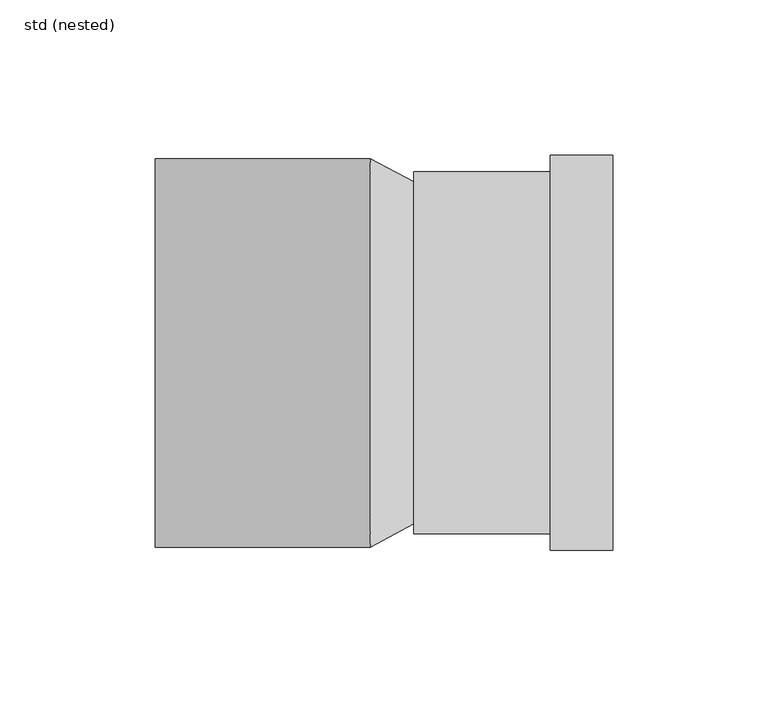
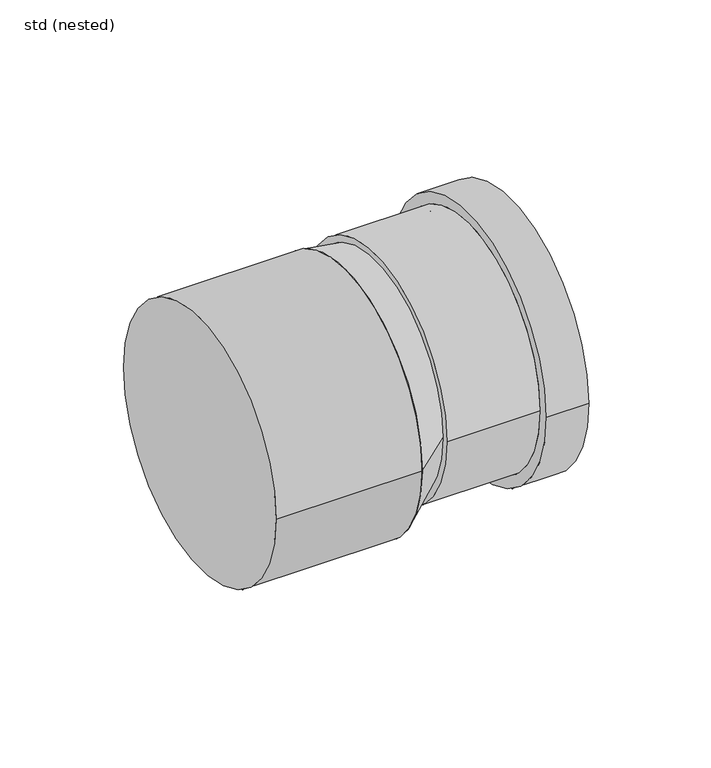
"""IFC4 building model written with IfcOpenShell, lengths in millimetres: pipe fitting geometry, NLRS_52_PIF_UN_SN4 SN8 verloop FM -SH_Dyka : std (nested)."""

import ifcopenshell
import ifcopenshell.guid

model = None  # the IFC model being written
_history = None  # IfcOwnerHistory: only IFC2X3 demands one
_inside = {}  # id of a spatial element -> (the spatial element, [elements in it])
_under = {}  # id of a project, library or spatial element -> (it, [spatial elements below it])
_declared = {}  # id of a project -> (the project, [libraries it declares])
_typed = {}  # id of a type object -> (the type object, [elements of that type])
_made_of = {}  # id of a material, layer set ... -> (it, [elements and type objects made of it])


def new_model(schema):
    """Start an empty IFC model of exactly this schema.

    Asked for "IFC4X3", IfcOpenShell would pick the latest addendum, in which some entities
    have other attributes; the version numbers below select the first issue.
    IFC2X3 requires an IfcOwnerHistory on every rooted entity: one is made here for all.
    """
    global model, _history
    if schema == "IFC4X3":
        model = ifcopenshell.file(schema_version=(4, 3, 0, 0))
    else:
        model = ifcopenshell.file(schema=schema)
    _inside.clear()
    _under.clear()
    _declared.clear()
    _typed.clear()
    _made_of.clear()
    _history = None
    if model.schema == "IFC2X3":
        org = make("IfcOrganization", Name="unknown")
        user = make(
            "IfcPersonAndOrganization",
            ThePerson=make("IfcPerson", FamilyName="unknown"),
            TheOrganization=org,
        )
        app = make(
            "IfcApplication",
            ApplicationDeveloper=org,
            Version="unknown",
            ApplicationFullName="unknown",
            ApplicationIdentifier="unknown",
        )
        _history = make(
            "IfcOwnerHistory",
            OwningUser=user,
            OwningApplication=app,
            ChangeAction="ADDED",
            CreationDate=0,
        )
    return model


def make(cls, **values):
    """One entity of the class cls with the attributes given. An attribute that is None is left unset."""
    return model.create_entity(
        cls, **{name: value for name, value in values.items() if value is not None}
    )


def rooted(cls, **values):
    """An entity with a GlobalId (a new one), such as an element, a storey or a relation."""
    return make(cls, GlobalId=ifcopenshell.guid.new(), OwnerHistory=_history, **values)


def si_unit(unit_type, name, prefix=None):
    """IfcSIUnit, for example si_unit("LENGTHUNIT", "METRE", prefix="MILLI")."""
    return make("IfcSIUnit", UnitType=unit_type, Prefix=prefix, Name=name)


def assignment(units):
    """IfcUnitAssignment: the units of a project."""
    return None if units is None else make("IfcUnitAssignment", Units=units)


def point(xyz):
    """IfcCartesianPoint."""
    return None if xyz is None else make("IfcCartesianPoint", Coordinates=xyz)


def direction(xyz):
    """IfcDirection."""
    return None if xyz is None else make("IfcDirection", DirectionRatios=xyz)


def frame(location, z_axis=None, x_axis=None):
    """IfcAxis2Placement3D, a coordinate frame: its origin and axes. An axis left out is left unset."""
    return make(
        "IfcAxis2Placement3D",
        Location=point(location),
        Axis=direction(z_axis),
        RefDirection=direction(x_axis),
    )


def frame_2d(location, x_axis=None):
    """IfcAxis2Placement2D, a coordinate frame in the plane: its origin and x axis."""
    return make(
        "IfcAxis2Placement2D", Location=point(location), RefDirection=direction(x_axis)
    )


def origin():
    """The frame at (0, 0, 0) with its axes left unset."""
    return frame((0.0, 0.0, 0.0))


def origin_2d():
    """The frame at (0, 0) in the plane with its x axis left unset."""
    return frame_2d((0.0, 0.0))


def place(relative_to, where):
    """IfcLocalPlacement: puts the frame where relative to a parent placement (None: the world)."""
    return make(
        "IfcLocalPlacement", PlacementRelTo=relative_to, RelativePlacement=where
    )


def context(
    kind, dimensions, precision=None, world=None, true_north=None, identifier=None
):
    """IfcGeometricRepresentationContext, for example the 3D "Model" context."""
    return make(
        "IfcGeometricRepresentationContext",
        ContextIdentifier=identifier,
        ContextType=kind,
        CoordinateSpaceDimension=dimensions,
        Precision=precision,
        WorldCoordinateSystem=world,
        TrueNorth=true_north,
    )


def project(units=None, contexts=None):
    """IfcProject with its units and contexts."""
    return rooted(
        "IfcProject",
        Name="project",
        RepresentationContexts=contexts,
        UnitsInContext=assignment(units),
    )


def spatial(cls, under=None, at=None, **own):
    """A site, building, storey or space (cls), placed at a placement, below another one or the project."""
    s = rooted(cls, ObjectPlacement=at, **own)
    if under is not None:
        _under.setdefault(under.id(), (under, []))[1].append(s)
    return s


def polyline(points):
    """IfcPolyline through the points."""
    return make("IfcPolyline", Points=[point(p) for p in points])


def circle_curve(where, radius):
    """IfcCircle in the frame where."""
    return make("IfcCircle", Position=where, Radius=radius)


def trimmed(basis, trim1, trim2, sense, master):
    """IfcTrimmedCurve: the piece of a basis curve between two trims."""
    return make(
        "IfcTrimmedCurve",
        BasisCurve=basis,
        Trim1=trim1,
        Trim2=trim2,
        SenseAgreement=sense,
        MasterRepresentation=master,
    )


def segment(curve, same_sense, transition):
    """IfcCompositeCurveSegment."""
    return make(
        "IfcCompositeCurveSegment",
        Transition=transition,
        SameSense=same_sense,
        ParentCurve=curve,
    )


def composite_curve(segments, self_intersect=None):
    """IfcCompositeCurve: segments joined end to end."""
    return make("IfcCompositeCurve", Segments=segments, SelfIntersect=self_intersect)


def outline(outer, holes=None, kind="AREA"):
    """IfcArbitraryClosedProfileDef: a profile drawn as a closed curve; with holes, ...WithVoids."""
    if holes is None:
        return make("IfcArbitraryClosedProfileDef", ProfileType=kind, OuterCurve=outer)
    return make(
        "IfcArbitraryProfileDefWithVoids",
        ProfileType=kind,
        OuterCurve=outer,
        InnerCurves=holes,
    )


def extrude(swept, where, along, depth):
    """IfcExtrudedAreaSolid: the profile swept, set in the frame where, extruded along a direction by depth."""
    return make(
        "IfcExtrudedAreaSolid",
        SweptArea=swept,
        Position=where,
        ExtrudedDirection=direction(along),
        Depth=depth,
    )


def shape(context_of_items, identifier, shape_type, items):
    """IfcShapeRepresentation: the items that make up one representation, for example the "Body"."""
    return make(
        "IfcShapeRepresentation",
        ContextOfItems=context_of_items,
        RepresentationIdentifier=identifier,
        RepresentationType=shape_type,
        Items=items,
    )


def source(mapping_origin, context_of_items, identifier, shape_type, items):
    """IfcRepresentationMap: a shape defined once, which mapped items show again and again."""
    return make(
        "IfcRepresentationMap",
        MappingOrigin=mapping_origin,
        MappedRepresentation=shape(context_of_items, identifier, shape_type, items),
    )


def transform(
    local_origin,
    x_axis=None,
    y_axis=None,
    z_axis=None,
    scale=None,
    scale2=None,
    scale3=None,
    uniform=True,
):
    """IfcCartesianTransformationOperator3D, or its non-uniform kind. x_axis, y_axis, z_axis: its Axis1, 2, 3."""
    if uniform:
        return make(
            "IfcCartesianTransformationOperator3D",
            Axis1=direction(x_axis),
            Axis2=direction(y_axis),
            LocalOrigin=point(local_origin),
            Scale=scale,
            Axis3=direction(z_axis),
        )
    return make(
        "IfcCartesianTransformationOperator3DnonUniform",
        Axis1=direction(x_axis),
        Axis2=direction(y_axis),
        LocalOrigin=point(local_origin),
        Scale=scale,
        Axis3=direction(z_axis),
        Scale2=scale2,
        Scale3=scale3,
    )


def mapped(mapping_source, mapping_target):
    """IfcMappedItem: shows the shape of a source again, moved by a transform."""
    return make(
        "IfcMappedItem", MappingSource=mapping_source, MappingTarget=mapping_target
    )


def made_of(thing, what):
    """Note that an element or type object is made of a material, layer set ...; save() writes the relation."""
    if what is not None:
        _made_of.setdefault(what.id(), (what, []))[1].append(thing)
    return thing


def element(
    cls,
    number,
    at=None,
    inside=None,
    cuts=None,
    type_object=None,
    material=None,
    context=None,
    identifier="Body",
    shape_type=None,
    held_by="IfcProductDefinitionShape",
    body=None,
    shapes=None,
    **own,
):
    """One element of the class cls, such as IfcWall. Its Tag is "e" and its number.

    at: its placement. inside: the storey or other place that contains it. cuts: it is an
    opening in that element (IfcRelVoidsElement). A single representation is given by context,
    identifier, shape_type and body (its items); several are given by shapes. held_by: the class
    of the entity that holds the representations. save() writes the other relations.
    """
    e = rooted(cls, Tag="e%d" % number, ObjectPlacement=at, **own)
    if body is not None:
        shapes = [shape(context, identifier, shape_type, body)]
    if shapes is not None:
        e.Representation = make(held_by, Representations=shapes)
    if inside is not None:
        _inside.setdefault(inside.id(), (inside, []))[1].append(e)
    if cuts is not None:
        rooted(
            "IfcRelVoidsElement", RelatingBuildingElement=cuts, RelatedOpeningElement=e
        )
    if type_object is not None:
        _typed.setdefault(type_object.id(), (type_object, []))[1].append(e)
    return made_of(e, material)


def aggregate(whole, parts):
    """IfcRelAggregates: a whole, such as a stair, and the parts it consists of."""
    return rooted("IfcRelAggregates", RelatingObject=whole, RelatedObjects=parts)


def save(model, path):
    """Write the relations noted so far, then the file.

    IfcRelAggregates (storeys below a building ...), IfcRelContainedInSpatialStructure (elements
    in a storey), IfcRelDefinesByType, IfcRelAssociatesMaterial and IfcRelDeclares: one each for
    every whole, place, type object, material and project.
    """
    for whole, parts in _under.values():
        aggregate(whole, parts)
    for where, things in _inside.values():
        rooted(
            "IfcRelContainedInSpatialStructure",
            RelatedElements=things,
            RelatingStructure=where,
        )
    for kind, things in _typed.values():
        rooted("IfcRelDefinesByType", RelatedObjects=things, RelatingType=kind)
    for what, things in _made_of.values():
        rooted("IfcRelAssociatesMaterial", RelatedObjects=things, RelatingMaterial=what)
    for by, libraries in _declared.values():
        rooted("IfcRelDeclares", RelatingContext=by, RelatedDefinitions=libraries)
    model.write(path)


def plane_surface(at):
    """IfcPlane: the flat surface through the origin of the frame at, square to its z axis."""
    return make("IfcPlane", Position=at)


def cylinder_surface(at, radius):
    """IfcCylindricalSurface: all points at the distance radius from the z axis of the frame at."""
    return make("IfcCylindricalSurface", Position=at, Radius=radius)


def revolved_surface(curve, axis_point, axis_direction):
    """IfcSurfaceOfRevolution: the curve turned about the line through axis_point along axis_direction."""
    return make(
        "IfcSurfaceOfRevolution",
        SweptCurve=make("IfcArbitraryOpenProfileDef", ProfileType="CURVE", Curve=curve),
        AxisPosition=make("IfcAxis1Placement", Location=point(axis_point), Axis=direction(axis_direction)),
    )


def spline_surface(u_degree, v_degree, points, u_multiplicities, v_multiplicities, u_knots, v_knots, weights=None):
    """IfcBSplineSurfaceWithKnots; with weights, IfcRationalBSplineSurfaceWithKnots. points: one row for each step in u."""
    own = dict(
        UDegree=u_degree,
        VDegree=v_degree,
        ControlPointsList=[[point(p) for p in row] for row in points],
        SurfaceForm="UNSPECIFIED",
        UClosed=False,
        VClosed=False,
        SelfIntersect=False,
        UMultiplicities=u_multiplicities,
        VMultiplicities=v_multiplicities,
        UKnots=u_knots,
        VKnots=v_knots,
        KnotSpec="UNSPECIFIED",
    )
    if weights is None:
        return make("IfcBSplineSurfaceWithKnots", **own)
    return make("IfcRationalBSplineSurfaceWithKnots", WeightsData=weights, **own)


def advanced_brep(points, edges, surfaces, faces):
    """IfcAdvancedBrep: a solid bounded by faces that lie on surfaces and meet in shared edges.

    An edge is (start, end): straight between two places in points (the first is 0);
    or (start, end, curve); or (start, end, curve, False) where it runs against its curve.
    A face is (place in surfaces, loops), or (place, loops, False) where it looks against
    its surface's normal. A loop lists edges by number (the first is 1), with a minus sign
    where the edge is run from its end to its start. The first loop is the outer one.
    """
    corners = [point(p) for p in points]
    vertices = [make("IfcVertexPoint", VertexGeometry=c) for c in corners]
    made = []
    for start, end, *more in edges:
        made.append(
            make(
                "IfcEdgeCurve",
                EdgeStart=vertices[start],
                EdgeEnd=vertices[end],
                EdgeGeometry=more[0] if more else make("IfcPolyline", Points=[corners[start], corners[end]]),
                SameSense=more[1] if len(more) > 1 else True,
            )
        )
    hull = []
    for where, loops, *sense in faces:
        bounds = []
        for j, loop in enumerate(loops):
            ring = [make("IfcOrientedEdge", EdgeElement=made[abs(k) - 1], Orientation=k > 0) for k in loop]
            bounds.append(
                make(
                    "IfcFaceOuterBound" if j == 0 else "IfcFaceBound",
                    Bound=make("IfcEdgeLoop", EdgeList=ring),
                    Orientation=True,
                )
            )
        hull.append(make("IfcAdvancedFace", Bounds=bounds, FaceSurface=surfaces[where], SameSense=sense[0] if sense else True))
    return make("IfcAdvancedBrep", Outer=make("IfcClosedShell", CfsFaces=hull))


def std_nested_771c07ca(model_context):
    return source(origin(), model_context, "Body", "SolidModel", [
        advanced_brep(
        [(147.0, 63.5, 7.0), (147.0, -63.5, 7.0), (147.0, 55.0, 7.0), (147.0, -55.0, 7.0), (127.0, 55.0, 7.0), (127.0, -55.0, 7.0), (127.0, 63.5, 7.0), (127.0, -63.5, 7.0), (83.0, 58.2, 7.0), (83.0, -58.2, 7.0), (83.0, 55.0, 7.0), (83.0, -55.0, 7.0), (127.0, -58.2, 7.0), (127.0, 58.2, 7.0)],
        [
            (0, 1, circle_curve(frame((147.0, 0.0, 7.0), z_axis=(1.0, 0.0, 0.0), x_axis=(0.0, -1.0, 0.0)), 63.5)),
            (1, 0, circle_curve(frame((147.0, 0.0, 7.0), z_axis=(1.0, 0.0, 0.0), x_axis=(0.0, -1.0, 0.0)), 63.5)),
            (2, 3, circle_curve(frame((147.0, 0.0, 7.0), z_axis=(-1.0, 0.0, 0.0), x_axis=(0.0, -1.0, 0.0)), 55.0)),
            (3, 2, circle_curve(frame((147.0, 0.0, 7.0), z_axis=(-1.0, 0.0, 0.0), x_axis=(0.0, -1.0, 0.0)), 55.0)),
            (2, 4),
            (4, 5, circle_curve(frame((127.0, 0.0, 7.0), z_axis=(-1.0, 0.0, 0.0), x_axis=(0.0, -1.0, 0.0)), 55.0)),
            (5, 3),
            (5, 4, circle_curve(frame((127.0, 0.0, 7.0), z_axis=(-1.0, 0.0, 0.0), x_axis=(0.0, -1.0, 0.0)), 55.0)),
            (0, 6),
            (6, 7, circle_curve(frame((127.0, 0.0, 7.0), z_axis=(1.0, 0.0, 0.0), x_axis=(0.0, -1.0, 0.0)), 63.5)),
            (7, 1),
            (7, 6, circle_curve(frame((127.0, 0.0, 7.0), z_axis=(1.0, 0.0, 0.0), x_axis=(0.0, -1.0, 0.0)), 63.5)),
            (8, 9, circle_curve(frame((83.0, 0.0, 7.0), z_axis=(-1.0, 0.0, 0.0), x_axis=(0.0, -1.0, 0.0)), 58.2)),
            (9, 8, circle_curve(frame((83.0, 0.0, 7.0), z_axis=(-1.0, 0.0, 0.0), x_axis=(0.0, -1.0, 0.0)), 58.2)),
            (10, 11, circle_curve(frame((83.0, 0.0, 7.0), z_axis=(1.0, 0.0, 0.0), x_axis=(0.0, -1.0, 0.0)), 55.0)),
            (11, 10, circle_curve(frame((83.0, 0.0, 7.0), z_axis=(1.0, 0.0, 0.0), x_axis=(0.0, -1.0, 0.0)), 55.0)),
            (11, 5),
            (4, 10),
            (9, 12),
            (12, 13, circle_curve(frame((127.0, 0.0, 7.0), z_axis=(-1.0, 0.0, 0.0), x_axis=(0.0, -1.0, 0.0)), 58.2)),
            (13, 8),
            (13, 12, circle_curve(frame((127.0, 0.0, 7.0), z_axis=(-1.0, 0.0, 0.0), x_axis=(0.0, -1.0, 0.0)), 58.2)),
        ],
        [
            plane_surface(frame((147.0, -55.0, 7.0), z_axis=(1.0, 0.0, 0.0), x_axis=(0.0, 0.0, 1.0))),
            revolved_surface(polyline([(127.0, -55.0, 7.0), (147.0, -55.0, 7.0)]), (127.0, 0.0, 7.0), (-1.0, 0.0, 0.0)),
            cylinder_surface(frame((83.0, 0.0, 7.0), z_axis=(1.0, 0.0, 0.0), x_axis=(0.0, -1.0, 0.0)), 63.5),
            plane_surface(frame((83.0, -55.0, 7.0), z_axis=(-1.0, 0.0, 0.0), x_axis=(0.0, 0.0, -1.0))),
            revolved_surface(polyline([(83.0, -55.0, 7.0), (127.0, -55.0, 7.0)]), (83.0, 0.0, 7.0), (-1.0, 0.0, 0.0)),
            cylinder_surface(frame((83.0, 0.0, 7.0), z_axis=(1.0, 0.0, 0.0), x_axis=(0.0, -1.0, 0.0)), 58.2),
            plane_surface(frame((127.0, -55.0, 7.0), z_axis=(-1.0, 0.0, 0.0), x_axis=(0.0, 0.0, -1.0))),
        ],
        [
            (0, [[1, 2], [3, 4]]),
            (1, [[-3, 5, 6, 7]]),
            (1, [[-4, -7, 8, -5]]),
            (2, [[-1, 9, 10, 11]]),
            (2, [[-2, -11, 12, -9]]),
            (3, [[13, 14], [15, 16]]),
            (4, [[-16, 17, -6, 18]]),
            (4, [[-15, -18, -8, -17]]),
            (5, [[-14, 19, 20, 21]]),
            (5, [[-13, -21, 22, -19]]),
            (6, [[-12, -10], [-20, -22]]),
        ],
    ),
        advanced_brep(
        [(83.0, -55.0, 7.0), (83.0, 55.0, 7.0), (69.0, -62.5, 0.0), (69.0, 62.5, 0.0)],
        [
            (0, 1, circle_curve(frame((83.0, 0.0, 7.0), z_axis=(1.0, 0.0, 0.0), x_axis=(0.0, 1.0, 0.0)), 55.0)),
            (1, 0, circle_curve(frame((83.0, 0.0, 7.0), z_axis=(1.0, 0.0, 0.0), x_axis=(0.0, 1.0, 0.0)), 55.0)),
            (2, 3, circle_curve(frame((69.0, 0.0, 0.0), z_axis=(-1.0, 0.0, 0.0), x_axis=(0.0, 1.0, 0.0)), 62.5)),
            (3, 2, circle_curve(frame((69.0, 0.0, 0.0), z_axis=(-1.0, 0.0, 0.0), x_axis=(0.0, 1.0, 0.0)), 62.5)),
            (3, 1),
            (0, 2),
        ],
        [
            plane_surface(frame((83.0, 0.0, 7.0), z_axis=(1.0, 0.0, 0.0), x_axis=(0.0, 0.0, -1.0))),
            plane_surface(frame((69.0, 0.0, 0.0), z_axis=(-1.0, 0.0, 0.0), x_axis=(0.0, 0.0, -1.0))),
            spline_surface(2, 1, [[(69.0, -62.5, 0.0), (83.0, -55.0, 7.0)], [(69.0, -62.5, -62.5), (83.0, -55.0, -48.0)], [(69.0, 0.0, -62.5), (83.0, 0.0, -48.0)], [(69.0, 62.5, -62.5), (83.0, 55.0, -48.0)], [(69.0, 62.5, 0.0), (83.0, 55.0, 7.0)]], [3, 2, 3], [2, 2], [0.0, 1.0, 2.0], [0.0, 1.0], weights=[[1.0, 1.0], [0.7071067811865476, 0.7071067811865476], [1.0, 1.0], [0.7071067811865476, 0.7071067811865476], [1.0, 1.0]]),
            spline_surface(2, 1, [[(69.0, 62.5, 0.0), (83.0, 55.0, 7.0)], [(69.0, 62.5, 62.5), (83.0, 55.0, 62.0)], [(69.0, 0.0, 62.5), (83.0, 0.0, 62.0)], [(69.0, -62.5, 62.5), (83.0, -55.0, 62.0)], [(69.0, -62.5, 0.0), (83.0, -55.0, 7.0)]], [3, 2, 3], [2, 2], [0.0, 1.0, 2.0], [0.0, 1.0], weights=[[1.0, 1.0], [0.7071067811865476, 0.7071067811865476], [1.0, 1.0], [0.7071067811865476, 0.7071067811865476], [1.0, 1.0]]),
        ],
        [
            (0, [[1, 2]]),
            (1, [[3, 4]]),
            (2, [[-4, 5, -1, 6]]),
            (3, [[-3, -6, -2, -5]]),
        ],
    ),
        extrude(outline(composite_curve([segment(trimmed(circle_curve(origin_2d(), 62.5), [point((-62.5, 0.0))], [point((62.5, 0.0))], False, "CARTESIAN"), True, "CONTINUOUS"), segment(trimmed(circle_curve(origin_2d(), 62.5), [point((62.5, 0.0))], [point((-62.5, 0.0))], False, "CARTESIAN"), True, "CONTINUOUS")], self_intersect=False)), frame((0.0, 0.0, 0.0), z_axis=(1.0, 0.0, 0.0), x_axis=(0.0, 1.0, 0.0)), (0.0, 0.0, 1.0), 69.0),
    ])


if __name__ == "__main__":
    model = new_model("IFC4")
    model_context = context("Model", 3, world=origin())
    ifc_project = project(units=[si_unit("LENGTHUNIT", "METRE", prefix="MILLI")], contexts=[model_context])
    site = spatial("IfcSite", under=ifc_project)
    building = spatial("IfcBuilding", under=site)
    placement = place(None, origin())
    std_nested_shape = std_nested_771c07ca(model_context)
    element("IfcPipeFitting", 1, ObjectType="NLRS_52_PIF_UN_SN4 SN8 verloop FM -SH_Dyka : std (nested)", at=placement, inside=building, context=model_context, shape_type="MappedRepresentation", body=[
        mapped(std_nested_shape, transform((0.0, 0.0, 0.0), x_axis=(1.0, 0.0, 0.0), y_axis=(0.0, 1.0, 0.0), z_axis=(0.0, 0.0, 1.0))),
    ])
    save(model, "model.ifc")
